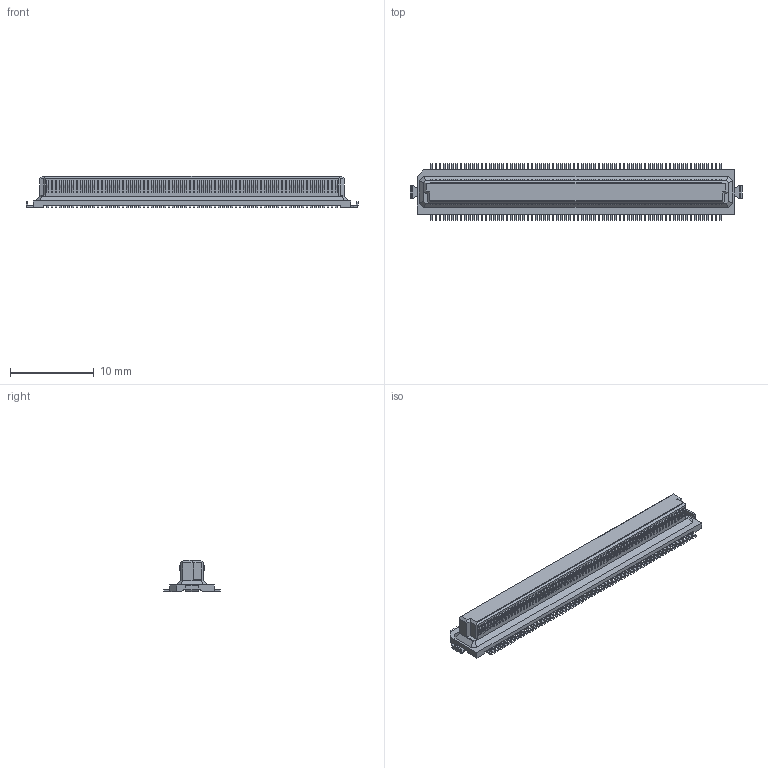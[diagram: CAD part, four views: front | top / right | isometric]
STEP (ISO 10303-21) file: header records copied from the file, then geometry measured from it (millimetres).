
FILE_DESCRIPTION(('Creo Elements/Direct Modeling STEP Export'),'2;1');
FILE_NAME('P3E372_DY10-140S-1-T-H.stp','2022-03-01T 9:13:52',(''),(''),'Creo Elements/Direct Modeling STEP processor for AP214 (Solid Model)','Creo Elements/Direct Modeling 20.4A 18-Oct-2021 (C) Parametric Technology GmbH','');
FILE_SCHEMA(('AUTOMOTIVE_DESIGN { 1 0 10303 214 1 1 1 1 }'));
Products named in the file (2): P3E372_DY10-140S-1-T-H
Assembly tree (1 placements, depth 2):
  P3E372_DY10-140S-1-T-H
    P3E372_DY10-140S-1-T-H
Bounding box: 39.7 x 6.8 x 3.73 mm (x, y, z)
Volume: 410.4 mm3; surface area: 864.5 mm2
Topology: 1 solids, 1 shells, 2084 faces, 5371 edges, 3570 vertices
Faces by surface type: plane 1652, cylinder 432
Entity records: 62848 total; most frequent: CARTESIAN_POINT 11018, ORIENTED_EDGE 10742, DIRECTION 10394, EDGE_CURVE 5371, VECTOR 4502, LINE 4502, VERTEX_POINT 3570, AXIS2_PLACEMENT_3D 2946
